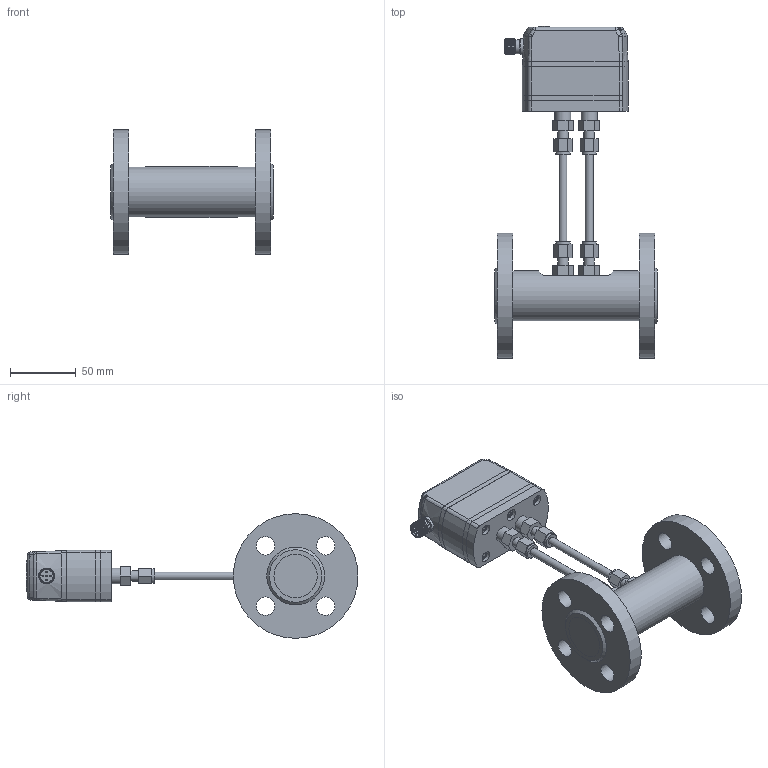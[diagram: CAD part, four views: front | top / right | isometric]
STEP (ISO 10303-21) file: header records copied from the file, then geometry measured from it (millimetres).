
FILE_DESCRIPTION( (''), '2;1');
FILE_NAME( 'QEKH_DN15_flange_capillary.step', '2025-04-29T16:04:26+08:00', (''), (''), '', '', '');
FILE_SCHEMA (('AUTOMOTIVE_DESIGN { 1 0 10303 214 3 1 1 1 }'));
Length unit declared in the file: millimetre
Products named in the file (1): QEKH DN15_flange_capillary
Bounding box: 124 x 252.9 x 95 mm (x, y, z)
Volume: 480492 mm3; surface area: 136617.4 mm2
Topology: 32 solids, 35 shells, 1602 faces, 3940 edges, 2529 vertices
Faces by surface type: plane 808, cylinder 302, extrusion 239, cone 144, torus 52, bspline 48, sphere 9
Full cylindrical faces by diameter (mm): 1 x10, 2.05 x4, 2.6 x4, 2.7 x5, 2.874 x4, 3 x4, 3.1 x1, 3.3 x8, 3.5 x7, 3.838 x6, 4.2 x2, 4.5 x12, 5 x2, 5.5 x10, 6 x6, 7 x6, 8 x8, 9 x2, 9.8 x2, 10.8 x1, 11 x4, 11.5 x2, 11.992 x2, 12 x12, 14 x10, 14.5 x2, 17 x2, 19.1 x6, 33 x4, 38 x1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
Entity records: 52639 total; most frequent: CARTESIAN_POINT 16637, ORIENTED_EDGE 7196, DIRECTION 6609, EDGE_CURVE 3598, VERTEX_POINT 2442, VECTOR 2219, AXIS2_PLACEMENT_3D 2195, EDGE_LOOP 2044
